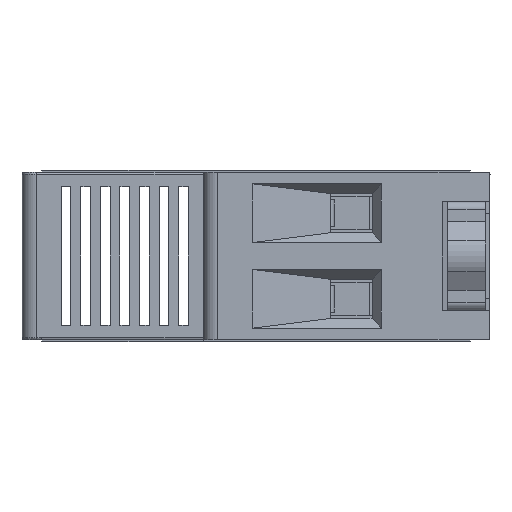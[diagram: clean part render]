
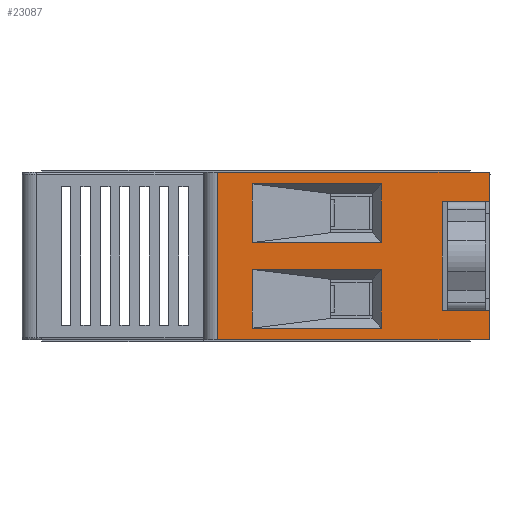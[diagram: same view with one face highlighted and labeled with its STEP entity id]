
A CAD part, left-side view. The second image highlights one B-rep face of the part: STEP entity #23087.
In plain terms, the highlighted planar face has unit normal (-1, 0, 0).
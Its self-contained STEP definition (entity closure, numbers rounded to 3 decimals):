
#406=CIRCLE('',#24460,0.2);
#407=CIRCLE('',#24462,0.2);
#2884=ORIENTED_EDGE('',*,*,#8092,.F.);
#2885=ORIENTED_EDGE('',*,*,#8093,.F.);
#2886=ORIENTED_EDGE('',*,*,#8094,.F.);
#2887=ORIENTED_EDGE('',*,*,#8095,.F.);
#2888=ORIENTED_EDGE('',*,*,#8096,.F.);
#2889=ORIENTED_EDGE('',*,*,#8097,.F.);
#2890=ORIENTED_EDGE('',*,*,#8098,.F.);
#2891=ORIENTED_EDGE('',*,*,#8099,.F.);
#2892=ORIENTED_EDGE('',*,*,#8100,.F.);
#2893=ORIENTED_EDGE('',*,*,#8101,.F.);
#2894=ORIENTED_EDGE('',*,*,#8102,.F.);
#2895=ORIENTED_EDGE('',*,*,#8103,.F.);
#2896=ORIENTED_EDGE('',*,*,#7806,.T.);
#2897=ORIENTED_EDGE('',*,*,#8091,.F.);
#2898=ORIENTED_EDGE('',*,*,#8104,.F.);
#2899=ORIENTED_EDGE('',*,*,#8105,.F.);
#2900=ORIENTED_EDGE('',*,*,#8106,.F.);
#2901=ORIENTED_EDGE('',*,*,#8107,.F.);
#7806=EDGE_CURVE('',#11127,#11126,#13786,.T.);
#8091=EDGE_CURVE('',#11284,#11126,#406,.T.);
#8092=EDGE_CURVE('',#11285,#11286,#14033,.T.);
#8093=EDGE_CURVE('',#11287,#11285,#14034,.T.);
#8094=EDGE_CURVE('',#11288,#11287,#14035,.T.);
#8095=EDGE_CURVE('',#11286,#11288,#14036,.T.);
#8096=EDGE_CURVE('',#11289,#11290,#14037,.T.);
#8097=EDGE_CURVE('',#11291,#11289,#14038,.T.);
#8098=EDGE_CURVE('',#11292,#11291,#14039,.T.);
#8099=EDGE_CURVE('',#11290,#11292,#14040,.T.);
#8100=EDGE_CURVE('',#11293,#11294,#14041,.T.);
#8101=EDGE_CURVE('',#11295,#11293,#407,.T.);
#8102=EDGE_CURVE('',#11296,#11295,#14042,.T.);
#8103=EDGE_CURVE('',#11127,#11296,#14043,.T.);
#8104=EDGE_CURVE('',#11297,#11284,#14044,.T.);
#8105=EDGE_CURVE('',#11298,#11297,#14045,.T.);
#8106=EDGE_CURVE('',#11299,#11298,#14046,.T.);
#8107=EDGE_CURVE('',#11294,#11299,#14047,.T.);
#11126=VERTEX_POINT('',#33903);
#11127=VERTEX_POINT('',#33905);
#11284=VERTEX_POINT('',#34724);
#11285=VERTEX_POINT('',#34728);
#11286=VERTEX_POINT('',#34729);
#11287=VERTEX_POINT('',#34731);
#11288=VERTEX_POINT('',#34733);
#11289=VERTEX_POINT('',#34736);
#11290=VERTEX_POINT('',#34737);
#11291=VERTEX_POINT('',#34739);
#11292=VERTEX_POINT('',#34741);
#11293=VERTEX_POINT('',#34744);
#11294=VERTEX_POINT('',#34745);
#11295=VERTEX_POINT('',#34747);
#11296=VERTEX_POINT('',#34749);
#11297=VERTEX_POINT('',#34752);
#11298=VERTEX_POINT('',#34754);
#11299=VERTEX_POINT('',#34756);
#13786=LINE('',#33904,#17097);
#14033=LINE('',#34727,#17344);
#14034=LINE('',#34730,#17345);
#14035=LINE('',#34732,#17346);
#14036=LINE('',#34734,#17347);
#14037=LINE('',#34735,#17348);
#14038=LINE('',#34738,#17349);
#14039=LINE('',#34740,#17350);
#14040=LINE('',#34742,#17351);
#14041=LINE('',#34743,#17352);
#14042=LINE('',#34748,#17353);
#14043=LINE('',#34750,#17354);
#14044=LINE('',#34751,#17355);
#14045=LINE('',#34753,#17356);
#14046=LINE('',#34755,#17357);
#14047=LINE('',#34757,#17358);
#17097=VECTOR('',#27029,1000.);
#17344=VECTOR('',#27546,1000.);
#17345=VECTOR('',#27547,1000.);
#17346=VECTOR('',#27548,1000.);
#17347=VECTOR('',#27549,1000.);
#17348=VECTOR('',#27550,1000.);
#17349=VECTOR('',#27551,1000.);
#17350=VECTOR('',#27552,1000.);
#17351=VECTOR('',#27553,1000.);
#17352=VECTOR('',#27554,1000.);
#17353=VECTOR('',#27557,1000.);
#17354=VECTOR('',#27558,1000.);
#17355=VECTOR('',#27559,1000.);
#17356=VECTOR('',#27560,1000.);
#17357=VECTOR('',#27561,1000.);
#17358=VECTOR('',#27562,1000.);
#19684=EDGE_LOOP('',(#2884,#2885,#2886,#2887));
#19685=EDGE_LOOP('',(#2888,#2889,#2890,#2891));
#19686=EDGE_LOOP('',(#2892,#2893,#2894,#2895,#2896,#2897,#2898,#2899,#2900,
#2901));
#20923=FACE_BOUND('',#19684,.T.);
#20924=FACE_BOUND('',#19685,.T.);
#20925=FACE_BOUND('',#19686,.T.);
#22064=PLANE('',#24461);
#23087=ADVANCED_FACE('',(#20923,#20924,#20925),#22064,.F.);
#24460=AXIS2_PLACEMENT_3D('',#34725,#27542,#27543);
#24461=AXIS2_PLACEMENT_3D('',#34726,#27544,#27545);
#24462=AXIS2_PLACEMENT_3D('',#34746,#27555,#27556);
#27029=DIRECTION('',(0.,-1.,0.));
#27542=DIRECTION('',(1.,0.,0.));
#27543=DIRECTION('',(0.,0.,-1.));
#27544=DIRECTION('',(1.,0.,0.));
#27545=DIRECTION('',(0.,-1.,0.));
#27546=DIRECTION('',(0.,0.,-1.));
#27547=DIRECTION('',(0.,1.,0.));
#27548=DIRECTION('',(0.,0.,1.));
#27549=DIRECTION('',(0.,-1.,0.));
#27550=DIRECTION('',(0.,0.,-1.));
#27551=DIRECTION('',(0.,1.,0.));
#27552=DIRECTION('',(0.,0.,1.));
#27553=DIRECTION('',(0.,-1.,0.));
#27554=DIRECTION('',(0.,0.,-1.));
#27555=DIRECTION('',(1.,0.,0.));
#27556=DIRECTION('',(0.,0.,-1.));
#27557=DIRECTION('',(0.,-1.,0.));
#27558=DIRECTION('',(0.,0.,1.));
#27559=DIRECTION('',(0.,0.,-1.));
#27560=DIRECTION('',(0.,-1.,0.));
#27561=DIRECTION('',(0.,0.,-1.));
#27562=DIRECTION('',(0.,1.,0.));
#33903=CARTESIAN_POINT('',(-136.653,-8.67,-6.664));
#33904=CARTESIAN_POINT('',(-136.653,5.13,-6.664));
#33905=CARTESIAN_POINT('',(-136.653,18.93,-6.664));
#34724=CARTESIAN_POINT('',(-136.653,-8.87,-6.464));
#34725=CARTESIAN_POINT('',(-136.653,-8.67,-6.464));
#34726=CARTESIAN_POINT('',(-136.653,18.941,10.447));
#34727=CARTESIAN_POINT('',(-136.653,15.43,6.261));
#34728=CARTESIAN_POINT('',(-136.653,15.43,9.261));
#34729=CARTESIAN_POINT('',(-136.653,15.43,3.261));
#34730=CARTESIAN_POINT('',(-136.653,8.83,9.261));
#34731=CARTESIAN_POINT('',(-136.653,2.23,9.261));
#34732=CARTESIAN_POINT('',(-136.653,2.23,6.261));
#34733=CARTESIAN_POINT('',(-136.653,2.23,3.261));
#34734=CARTESIAN_POINT('',(-136.653,8.83,3.261));
#34735=CARTESIAN_POINT('',(-136.653,15.43,-2.489));
#34736=CARTESIAN_POINT('',(-136.653,15.43,0.511));
#34737=CARTESIAN_POINT('',(-136.653,15.43,-5.489));
#34738=CARTESIAN_POINT('',(-136.653,8.83,0.511));
#34739=CARTESIAN_POINT('',(-136.653,2.23,0.511));
#34740=CARTESIAN_POINT('',(-136.653,2.23,-2.489));
#34741=CARTESIAN_POINT('',(-136.653,2.23,-5.489));
#34742=CARTESIAN_POINT('',(-136.653,8.83,-5.489));
#34743=CARTESIAN_POINT('',(-136.653,-8.87,8.836));
#34744=CARTESIAN_POINT('',(-136.653,-8.87,10.236));
#34745=CARTESIAN_POINT('',(-136.653,-8.87,7.436));
#34746=CARTESIAN_POINT('',(-136.653,-8.67,10.236));
#34747=CARTESIAN_POINT('',(-136.653,-8.67,10.436));
#34748=CARTESIAN_POINT('',(-136.653,5.13,10.436));
#34749=CARTESIAN_POINT('',(-136.653,18.93,10.436));
#34750=CARTESIAN_POINT('',(-136.653,18.93,1.886));
#34751=CARTESIAN_POINT('',(-136.653,-8.87,-5.064));
#34752=CARTESIAN_POINT('',(-136.653,-8.87,-3.664));
#34753=CARTESIAN_POINT('',(-136.653,-6.42,-3.664));
#34754=CARTESIAN_POINT('',(-136.653,-3.97,-3.664));
#34755=CARTESIAN_POINT('',(-136.653,-3.97,1.886));
#34756=CARTESIAN_POINT('',(-136.653,-3.97,7.436));
#34757=CARTESIAN_POINT('',(-136.653,-6.42,7.436));
